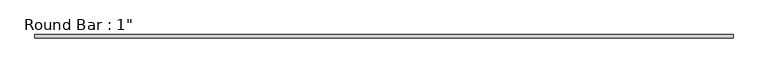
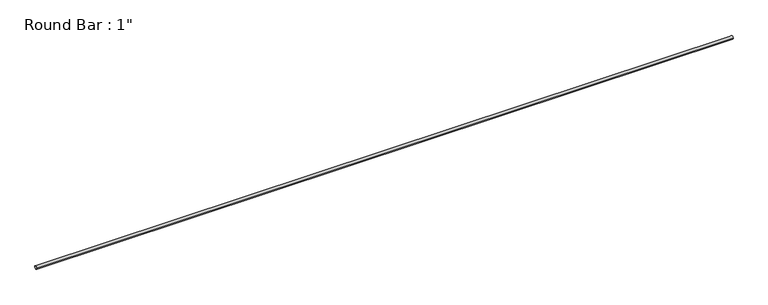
"""IFC4 building model written with IfcOpenShell, lengths in millimetres: member geometry."""

from ifc_helpers import new_model, si_unit, point, frame, origin, origin_2d, place, context, project, spatial, circle_curve, trimmed, segment, composite_curve, outline, extrude, source, transform, mapped, element, save


def member_e14d502c(model_context):
    return source(origin(), model_context, "Body", "SweptSolid", [
        extrude(outline(composite_curve([segment(trimmed(circle_curve(origin_2d(), 12.7), [point((-12.7, 0.0))], [point((12.7, 0.0))], False, "CARTESIAN"), True, "CONTINUOUS"), segment(trimmed(circle_curve(origin_2d(), 12.7), [point((12.7, 0.0))], [point((-12.7, 0.0))], False, "CARTESIAN"), True, "CONTINUOUS")], self_intersect=False)), frame((-2701.2513798, 0.0, 0.0), z_axis=(1.0, 0.0, 0.0), x_axis=(0.0, 1.0, 0.0)), (0.0, 0.0, 1.0), 5442.8145905),
    ])


if __name__ == "__main__":
    model = new_model("IFC4")
    model_context = context("Model", 3, world=origin())
    ifc_project = project(units=[si_unit("LENGTHUNIT", "METRE", prefix="MILLI")], contexts=[model_context])
    site = spatial("IfcSite", under=ifc_project)
    building = spatial("IfcBuilding", under=site)
    placement = place(None, origin())
    member_shape = member_e14d502c(model_context)
    element("IfcMember", 1, ObjectType="Round Bar : 1\"", at=placement, inside=building, context=model_context, shape_type="MappedRepresentation", body=[
        mapped(member_shape, transform((0.0, 0.0, 0.0), x_axis=(1.0, 0.0, 0.0), y_axis=(0.0, 1.0, 0.0), z_axis=(0.0, 0.0, 1.0))),
    ])
    save(model, "model.ifc")
